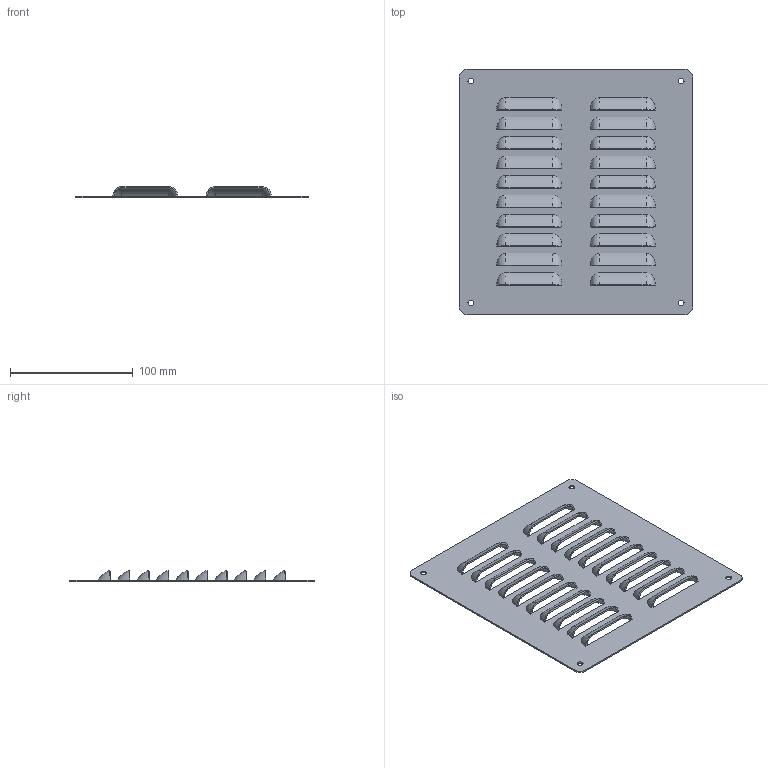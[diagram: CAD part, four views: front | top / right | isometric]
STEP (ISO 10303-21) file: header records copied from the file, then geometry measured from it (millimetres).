
FILE_DESCRIPTION((''),'2;1');
FILE_NAME('SCE-AVK66SS_ASM','2021-10-19T10:16:01',('mikek'),('SAGINAW CONTROL & ENGINEERING'),'CREO PARAMETRIC BY PTC INC, 2017260','CREO PARAMETRIC BY PTC INC, 2017260','');
FILE_SCHEMA(('AUTOMOTIVE_DESIGN { 1 0 10303 214 1 1 1 1 }'));
Length unit declared in the file: inch
Products named in the file (3): 110738; 102047; SCE-AVK66SS_ASM
Assembly tree (2 placements, depth 2):
  SCE-AVK66SS_ASM
    110738
    102047
Bounding box: 190.5 x 200.03 x 9.07 mm (x, y, z)
Volume: 50740 mm3; surface area: 87121.3 mm2
Topology: 1 solids, 1 shells, 298 faces, 728 edges, 432 vertices
Faces by surface type: bspline 120, torus 80, cylinder 52, plane 46
Entity records: 15173 total; most frequent: CARTESIAN_POINT 8147, ORIENTED_EDGE 1456, DIRECTION 1038, EDGE_CURVE 728, VERTEX_POINT 432, VECTOR 384, LINE 384, EDGE_LOOP 346
